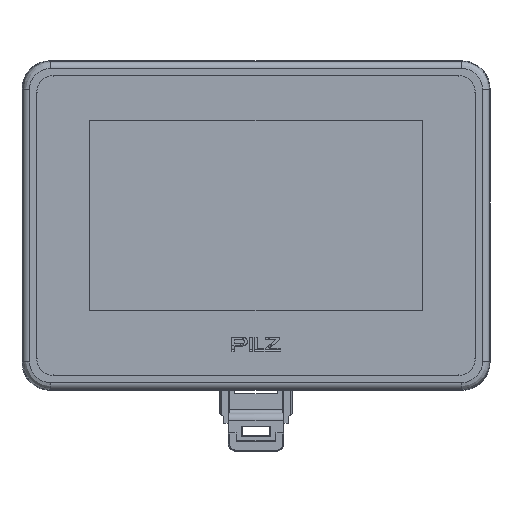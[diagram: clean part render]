
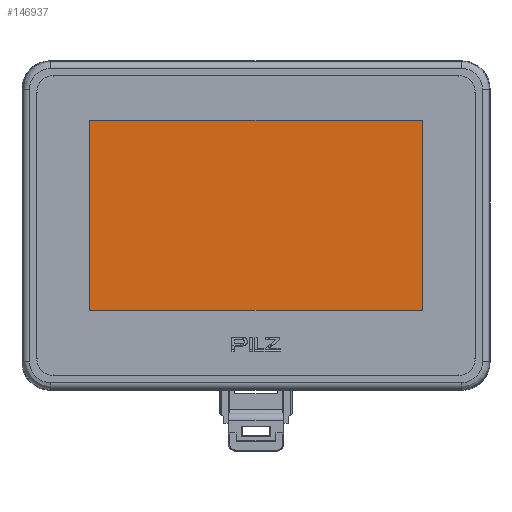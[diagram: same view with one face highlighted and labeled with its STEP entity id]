
A CAD part, top view. The second image highlights one B-rep face of the part: STEP entity #146937.
In plain terms, the highlighted planar face has unit normal (0, 0, 1).
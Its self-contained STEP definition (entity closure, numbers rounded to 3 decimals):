
#69031=DIRECTION('',(-1.,0.,0.));
#69032=VECTOR('',#69031,96.04);
#69033=CARTESIAN_POINT('',(48.02,30.425,6.617));
#69034=LINE('',#69033,#69032);
#69038=DIRECTION('',(0.,1.,0.));
#69039=VECTOR('',#69038,54.85);
#69040=CARTESIAN_POINT('',(48.02,-24.425,6.617));
#69041=LINE('',#69040,#69039);
#69045=DIRECTION('',(1.,0.,0.));
#69046=VECTOR('',#69045,96.04);
#69047=CARTESIAN_POINT('',(-48.02,-24.425,6.617));
#69048=LINE('',#69047,#69046);
#69052=DIRECTION('',(0.,-1.,0.));
#69053=VECTOR('',#69052,54.85);
#69054=CARTESIAN_POINT('',(-48.02,30.425,6.617));
#69055=LINE('',#69054,#69053);
#87416=CARTESIAN_POINT('',(48.02,30.425,6.617));
#87417=CARTESIAN_POINT('',(-48.02,30.425,6.617));
#87418=VERTEX_POINT('',#87416);
#87419=VERTEX_POINT('',#87417);
#87420=CARTESIAN_POINT('',(48.02,-24.425,6.617));
#87421=VERTEX_POINT('',#87420);
#87422=CARTESIAN_POINT('',(-48.02,-24.425,6.617));
#87423=VERTEX_POINT('',#87422);
#146924=CARTESIAN_POINT('',(0.,0.,6.617));
#146925=DIRECTION('',(0.,0.,-1.));
#146926=DIRECTION('',(0.,-1.,0.));
#146927=AXIS2_PLACEMENT_3D('',#146924,#146925,#146926);
#146928=PLANE('',#146927);
#146929=ORIENTED_EDGE('',*,*,#146905,.F.);
#146931=ORIENTED_EDGE('',*,*,#146930,.F.);
#146933=ORIENTED_EDGE('',*,*,#146932,.F.);
#146934=ORIENTED_EDGE('',*,*,#146916,.F.);
#146935=EDGE_LOOP('',(#146929,#146931,#146933,#146934));
#146936=FACE_OUTER_BOUND('',#146935,.F.);
#146905=EDGE_CURVE('',#87418,#87419,#69034,.T.);
#146916=EDGE_CURVE('',#87419,#87423,#69055,.T.);
#146930=EDGE_CURVE('',#87421,#87418,#69041,.T.);
#146932=EDGE_CURVE('',#87423,#87421,#69048,.T.);
#146937=ADVANCED_FACE('',(#146936),#146928,.F.);
